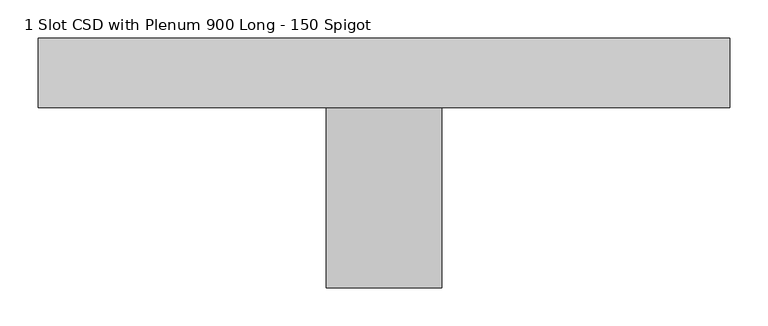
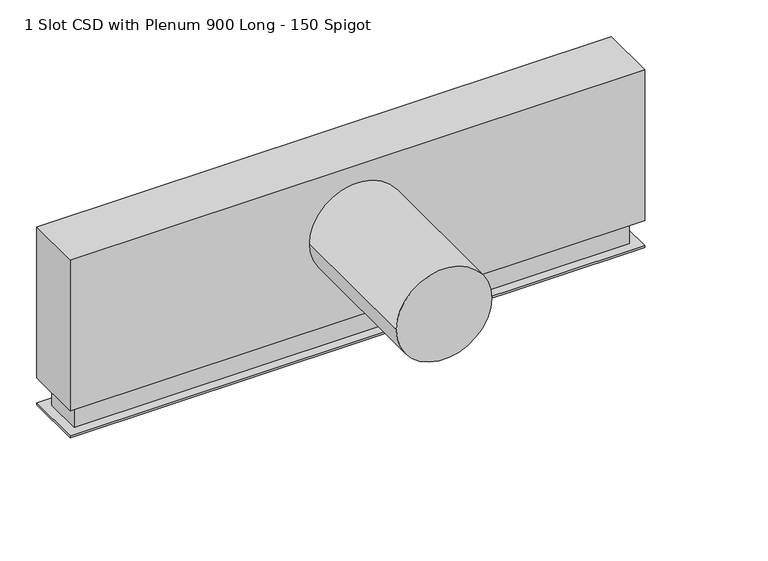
"""IFC4 building model written with IfcOpenShell, lengths in millimetres: air terminal geometry, DC_Holyoake_MEQ_CSD-25-1Slot_with_CSDAI__Plenum_14 : 1 Slot CSD with Plenum 900 Long - 150 Spigot."""

from ifc_helpers import new_model, si_unit, point, frame, frame_2d, origin, place, context, project, spatial, polyline, circle_curve, trimmed, segment, composite_curve, outline, extrude, faceted_brep, source, transform, mapped, element, save


def air_terminal_1_slot_csd_with_plenum_900_long_150_spigot_036a8efe(model_context):
    return source(origin(), model_context, "Body", "SolidModel", [
        extrude(outline(composite_curve([segment(trimmed(circle_curve(frame_2d((190.0, 0.0)), 75.0), [point((190.0, -75.0))], [point((190.0, 75.0))], False, "CARTESIAN"), True, "CONTINUOUS"), segment(trimmed(circle_curve(frame_2d((190.0, 0.0)), 75.0), [point((190.0, 75.0))], [point((190.0, -75.0))], False, "CARTESIAN"), True, "CONTINUOUS")], self_intersect=False)), frame((0.0, -280.0, 0.0), z_axis=(0.0, 1.0, 0.0), x_axis=(0.0, 0.0, 1.0)), (0.0, 0.0, 1.0), 235.0),
        faceted_brep([(450.0, 45.0, 3.2), (-450.0, 45.0, 3.2), (-450.0, -45.0, 3.2), (450.0, -45.0, 3.2), (-435.0, 30.0, 3.2), (435.0, 30.0, 3.2), (435.0, -30.0, 3.2), (-435.0, -30.0, 3.2), (450.0, 45.0, 0.0), (450.0, -45.0, 0.0), (-450.0, -45.0, 0.0), (-450.0, 45.0, 0.0), (425.0, -12.5, 0.0), (425.0, 12.5, 0.0), (-425.0, 12.5, 0.0), (-425.0, -12.5, 0.0), (435.0, 30.0, 45.0), (-435.0, 30.0, 45.0), (-435.0, -30.0, 45.0), (435.0, -30.0, 45.0), (425.0, -12.5, 30.0), (-425.0, -12.5, 30.0), (-425.0, 12.5, 30.0), (425.0, 12.5, 30.0)], [[[0, 1, 2, 3], [4, 5, 6, 7]], [[8, 9, 10, 11], [12, 13, 14, 15]], [[1, 0, 8, 11]], [[2, 1, 11, 10]], [[3, 2, 10, 9]], [[0, 3, 9, 8]], [[16, 17, 18, 19]], [[17, 16, 5, 4]], [[18, 17, 4, 7]], [[19, 18, 7, 6]], [[16, 19, 6, 5]], [[20, 21, 22, 23]], [[20, 23, 13, 12]], [[23, 22, 14, 13]], [[22, 21, 15, 14]], [[21, 20, 12, 15]]]),
        extrude(outline(polyline([(450.0, 45.0), (450.0, -45.0), (-450.0, -45.0), (-450.0, 45.0), (450.0, 45.0)])), frame((0.0, 0.0, 45.0), z_axis=(0.0, 0.0, 1.0), x_axis=(1.0, 0.0, 0.0)), (0.0, 0.0, 1.0), 250.0),
    ])


if __name__ == "__main__":
    model = new_model("IFC4")
    model_context = context("Model", 3, world=origin())
    ifc_project = project(units=[si_unit("LENGTHUNIT", "METRE", prefix="MILLI")], contexts=[model_context])
    site = spatial("IfcSite", under=ifc_project)
    building = spatial("IfcBuilding", under=site)
    placement = place(None, origin())
    air_terminal_1_slot_csd_with_plenum_900_long_150_spigot_shape = air_terminal_1_slot_csd_with_plenum_900_long_150_spigot_036a8efe(model_context)
    element("IfcAirTerminal", 1, ObjectType="DC_Holyoake_MEQ_CSD-25-1Slot_with_CSDAI__Plenum_14 : 1 Slot CSD with Plenum 900 Long - 150 Spigot", at=placement, inside=building, context=model_context, shape_type="MappedRepresentation", body=[
        mapped(air_terminal_1_slot_csd_with_plenum_900_long_150_spigot_shape, transform((0.0, 0.0, 0.0), x_axis=(1.0, 0.0, 0.0), y_axis=(0.0, 1.0, 0.0), z_axis=(0.0, 0.0, 1.0))),
    ])
    save(model, "model.ifc")
